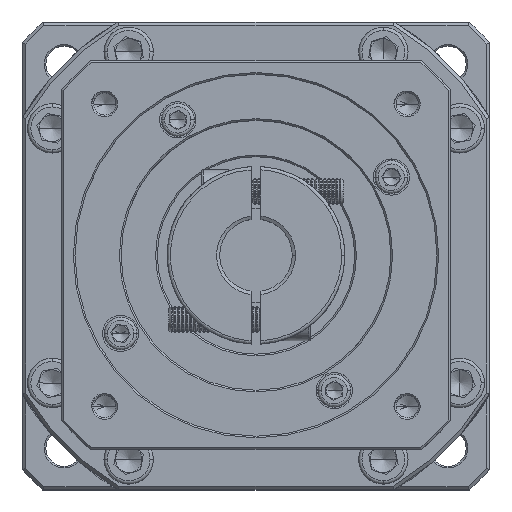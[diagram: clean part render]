
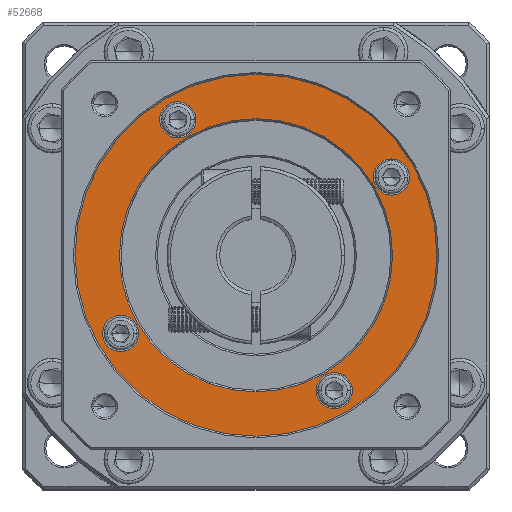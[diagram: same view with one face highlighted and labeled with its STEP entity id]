
A CAD part, top view. The second image highlights one B-rep face of the part: STEP entity #52668.
In plain terms, the highlighted planar face has unit normal (0, 0, 1).
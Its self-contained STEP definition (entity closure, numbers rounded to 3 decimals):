
#3487 = AXIS2_PLACEMENT_3D ( 'NONE', #44600, #54671, #124673 ) ;
#4242 = CARTESIAN_POINT ( 'NONE',  ( -120.839, 48.726, 22.966 ) ) ;
#4516 = DIRECTION ( 'NONE',  ( 1., 0., 0. ) ) ;
#4674 = DIRECTION ( 'NONE',  ( 0., -1., 0. ) ) ;
#4869 = VERTEX_POINT ( 'NONE', #71902 ) ;
#6795 = FACE_BOUND ( 'NONE', #88923, .T. ) ;
#9892 = AXIS2_PLACEMENT_3D ( 'NONE', #122714, #61918, #31714 ) ;
#10993 = VERTEX_POINT ( 'NONE', #71534 ) ;
#13135 = FACE_BOUND ( 'NONE', #25517, .T. ) ;
#14411 = DIRECTION ( 'NONE',  ( 1., 0., 0. ) ) ;
#15465 = ORIENTED_EDGE ( 'NONE', *, *, #26660, .T. ) ;
#17518 = AXIS2_PLACEMENT_3D ( 'NONE', #29578, #90017, #119737 ) ;
#17601 = VERTEX_POINT ( 'NONE', #67430 ) ;
#17876 = EDGE_LOOP ( 'NONE', ( #50388, #70620 ) ) ;
#18140 = EDGE_CURVE ( 'NONE', #17601, #89232, #96716, .T. ) ;
#18222 = DIRECTION ( 'NONE',  ( 0., 0., -1. ) ) ;
#18322 = AXIS2_PLACEMENT_3D ( 'NONE', #107505, #128447, #36637 ) ;
#18656 = DIRECTION ( 'NONE',  ( 1., 0., 0. ) ) ;
#19435 = FACE_BOUND ( 'NONE', #73954, .T. ) ;
#20865 = VERTEX_POINT ( 'NONE', #69170 ) ;
#23164 = EDGE_LOOP ( 'NONE', ( #119234, #105906 ) ) ;
#24700 = AXIS2_PLACEMENT_3D ( 'NONE', #43120, #43996, #4516 ) ;
#24955 = CARTESIAN_POINT ( 'NONE',  ( -79.703, 72.476, 22.966 ) ) ;
#25137 = AXIS2_PLACEMENT_3D ( 'NONE', #51130, #129412, #69993 ) ;
#25517 = EDGE_LOOP ( 'NONE', ( #49745, #55290 ) ) ;
#25962 = AXIS2_PLACEMENT_3D ( 'NONE', #4242, #113702, #122480 ) ;
#26660 = EDGE_CURVE ( 'NONE', #101867, #61470, #128042, .T. ) ;
#27034 = CARTESIAN_POINT ( 'NONE',  ( -91.589, 7.589, 22.966 ) ) ;
#27939 = CARTESIAN_POINT ( 'NONE',  ( -175.839, 48.726, 22.966 ) ) ;
#29269 = PLANE ( 'NONE',  #25137 ) ;
#29578 = CARTESIAN_POINT ( 'NONE',  ( -144.589, 89.862, 22.966 ) ) ;
#30017 = CARTESIAN_POINT ( 'NONE',  ( -120.839, 90.226, 22.966 ) ) ;
#31714 = DIRECTION ( 'NONE',  ( 1., 0., 0. ) ) ;
#32736 = CARTESIAN_POINT ( 'NONE',  ( -102.589, 7.589, 22.966 ) ) ;
#33019 = AXIS2_PLACEMENT_3D ( 'NONE', #67128, #107814, #116974 ) ;
#34972 = CIRCLE ( 'NONE', #116405, 5.5 ) ;
#35680 = EDGE_CURVE ( 'NONE', #97824, #43249, #83348, .T. ) ;
#36046 = AXIS2_PLACEMENT_3D ( 'NONE', #24955, #124289, #14411 ) ;
#36637 = DIRECTION ( 'NONE',  ( 1., 0., 0. ) ) ;
#39764 = FACE_BOUND ( 'NONE', #23164, .T. ) ;
#43120 = CARTESIAN_POINT ( 'NONE',  ( -161.975, 24.976, 22.966 ) ) ;
#43249 = VERTEX_POINT ( 'NONE', #32736 ) ;
#43996 = DIRECTION ( 'NONE',  ( 0., 0., -1. ) ) ;
#44600 = CARTESIAN_POINT ( 'NONE',  ( -144.589, 89.862, 22.966 ) ) ;
#49745 = ORIENTED_EDGE ( 'NONE', *, *, #18140, .T. ) ;
#50388 = ORIENTED_EDGE ( 'NONE', *, *, #114184, .T. ) ;
#51130 = CARTESIAN_POINT ( 'NONE',  ( -120.839, 48.726, 22.966 ) ) ;
#52668 = ADVANCED_FACE ( 'NONE', ( #72773, #13135, #66434, #19435, #39764, #6795 ), #29269, .T. ) ;
#54319 = CIRCLE ( 'NONE', #17518, 5.5 ) ;
#54671 = DIRECTION ( 'NONE',  ( 0., 0., -1. ) ) ;
#54748 = CARTESIAN_POINT ( 'NONE',  ( -167.475, 24.976, 22.966 ) ) ;
#55290 = ORIENTED_EDGE ( 'NONE', *, *, #97414, .T. ) ;
#58840 = CARTESIAN_POINT ( 'NONE',  ( -120.839, 48.726, 22.966 ) ) ;
#59082 = AXIS2_PLACEMENT_3D ( 'NONE', #64284, #64706, #4674 ) ;
#61470 = VERTEX_POINT ( 'NONE', #54748 ) ;
#61918 = DIRECTION ( 'NONE',  ( 0., 0., -1. ) ) ;
#64249 = EDGE_CURVE ( 'NONE', #83637, #10993, #84313, .T. ) ;
#64284 = CARTESIAN_POINT ( 'NONE',  ( -120.839, 48.726, 22.966 ) ) ;
#64706 = DIRECTION ( 'NONE',  ( 0., 0., -1. ) ) ;
#66434 = FACE_BOUND ( 'NONE', #97706, .T. ) ;
#67128 = CARTESIAN_POINT ( 'NONE',  ( -79.703, 72.476, 22.966 ) ) ;
#67430 = CARTESIAN_POINT ( 'NONE',  ( -120.839, 7.226, 22.966 ) ) ;
#68247 = VERTEX_POINT ( 'NONE', #27939 ) ;
#68793 = AXIS2_PLACEMENT_3D ( 'NONE', #97443, #18222, #18656 ) ;
#69170 = CARTESIAN_POINT ( 'NONE',  ( -65.839, 48.726, 22.966 ) ) ;
#69333 = DIRECTION ( 'NONE',  ( 0., 0., 1. ) ) ;
#69993 = DIRECTION ( 'NONE',  ( 1., 0., 0. ) ) ;
#70027 = CIRCLE ( 'NONE', #18322, 55. ) ;
#70620 = ORIENTED_EDGE ( 'NONE', *, *, #116724, .T. ) ;
#71534 = CARTESIAN_POINT ( 'NONE',  ( -74.203, 72.476, 22.966 ) ) ;
#71902 = CARTESIAN_POINT ( 'NONE',  ( -150.089, 89.862, 22.966 ) ) ;
#72773 = FACE_OUTER_BOUND ( 'NONE', #17876, .T. ) ;
#73954 = EDGE_LOOP ( 'NONE', ( #99839, #119145 ) ) ;
#75652 = AXIS2_PLACEMENT_3D ( 'NONE', #58840, #69333, #80258 ) ;
#80258 = DIRECTION ( 'NONE',  ( 1., 0., 0. ) ) ;
#80659 = ORIENTED_EDGE ( 'NONE', *, *, #64249, .T. ) ;
#83348 = CIRCLE ( 'NONE', #68793, 5.5 ) ;
#83637 = VERTEX_POINT ( 'NONE', #105415 ) ;
#84313 = CIRCLE ( 'NONE', #33019, 5.5 ) ;
#84788 = EDGE_CURVE ( 'NONE', #10993, #83637, #92341, .T. ) ;
#88288 = ORIENTED_EDGE ( 'NONE', *, *, #84788, .T. ) ;
#88923 = EDGE_LOOP ( 'NONE', ( #15465, #90408 ) ) ;
#89232 = VERTEX_POINT ( 'NONE', #30017 ) ;
#90017 = DIRECTION ( 'NONE',  ( 0., 0., -1. ) ) ;
#90408 = ORIENTED_EDGE ( 'NONE', *, *, #111582, .T. ) ;
#92341 = CIRCLE ( 'NONE', #36046, 5.5 ) ;
#93028 = DIRECTION ( 'NONE',  ( 0., 0., -1. ) ) ;
#93217 = EDGE_CURVE ( 'NONE', #4869, #114753, #108267, .T. ) ;
#95037 = CIRCLE ( 'NONE', #24700, 5.5 ) ;
#96716 = CIRCLE ( 'NONE', #59082, 41.5 ) ;
#97414 = EDGE_CURVE ( 'NONE', #89232, #17601, #123907, .T. ) ;
#97443 = CARTESIAN_POINT ( 'NONE',  ( -97.089, 7.589, 22.966 ) ) ;
#97706 = EDGE_LOOP ( 'NONE', ( #88288, #80659 ) ) ;
#97824 = VERTEX_POINT ( 'NONE', #27034 ) ;
#99839 = ORIENTED_EDGE ( 'NONE', *, *, #35680, .T. ) ;
#101867 = VERTEX_POINT ( 'NONE', #119367 ) ;
#103044 = DIRECTION ( 'NONE',  ( 1., 0., 0. ) ) ;
#103104 = EDGE_CURVE ( 'NONE', #114753, #4869, #54319, .T. ) ;
#105415 = CARTESIAN_POINT ( 'NONE',  ( -85.203, 72.476, 22.966 ) ) ;
#105601 = CIRCLE ( 'NONE', #75652, 55. ) ;
#105906 = ORIENTED_EDGE ( 'NONE', *, *, #93217, .T. ) ;
#107505 = CARTESIAN_POINT ( 'NONE',  ( -120.839, 48.726, 22.966 ) ) ;
#107814 = DIRECTION ( 'NONE',  ( 0., 0., -1. ) ) ;
#108267 = CIRCLE ( 'NONE', #3487, 5.5 ) ;
#108617 = CARTESIAN_POINT ( 'NONE',  ( -139.089, 89.862, 22.966 ) ) ;
#109530 = EDGE_CURVE ( 'NONE', #43249, #97824, #34972, .T. ) ;
#111582 = EDGE_CURVE ( 'NONE', #61470, #101867, #95037, .T. ) ;
#113096 = CARTESIAN_POINT ( 'NONE',  ( -97.089, 7.589, 22.966 ) ) ;
#113702 = DIRECTION ( 'NONE',  ( 0., 0., -1. ) ) ;
#114184 = EDGE_CURVE ( 'NONE', #20865, #68247, #70027, .T. ) ;
#114753 = VERTEX_POINT ( 'NONE', #108617 ) ;
#116405 = AXIS2_PLACEMENT_3D ( 'NONE', #113096, #93028, #103044 ) ;
#116724 = EDGE_CURVE ( 'NONE', #68247, #20865, #105601, .T. ) ;
#116974 = DIRECTION ( 'NONE',  ( 1., 0., 0. ) ) ;
#119145 = ORIENTED_EDGE ( 'NONE', *, *, #109530, .T. ) ;
#119234 = ORIENTED_EDGE ( 'NONE', *, *, #103104, .T. ) ;
#119367 = CARTESIAN_POINT ( 'NONE',  ( -156.475, 24.976, 22.966 ) ) ;
#119737 = DIRECTION ( 'NONE',  ( 1., 0., 0. ) ) ;
#122480 = DIRECTION ( 'NONE',  ( 0., -1., 0. ) ) ;
#122714 = CARTESIAN_POINT ( 'NONE',  ( -161.975, 24.976, 22.966 ) ) ;
#123907 = CIRCLE ( 'NONE', #25962, 41.5 ) ;
#124289 = DIRECTION ( 'NONE',  ( 0., 0., -1. ) ) ;
#124673 = DIRECTION ( 'NONE',  ( 1., 0., 0. ) ) ;
#128042 = CIRCLE ( 'NONE', #9892, 5.5 ) ;
#128447 = DIRECTION ( 'NONE',  ( 0., 0., 1. ) ) ;
#129412 = DIRECTION ( 'NONE',  ( 0., 0., 1. ) ) ;
